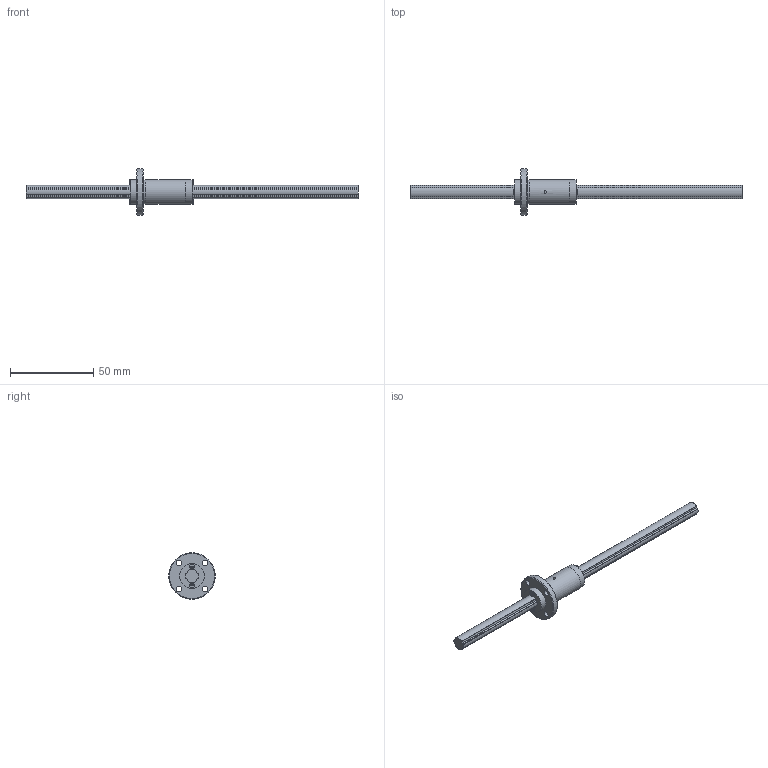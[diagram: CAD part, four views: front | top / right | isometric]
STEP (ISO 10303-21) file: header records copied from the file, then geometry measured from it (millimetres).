
FILE_DESCRIPTION(/* description */ ('STEP AP214'),/* implementation_level */ '2;1');
FILE_NAME(/* name */ 'LF8XL+200L(00)',/* time_stamp */ '2024-09-05T14:45:25+02:00',/* author */ ('License CC BY-ND 4.0'),/* organization */ ('CADENAS'),/* preprocessor_version */ 'ST-DEVELOPER v19.3',/* originating_system */ 'PARTsolutions',/* authorisation */ ' ');
FILE_SCHEMA (('AUTOMOTIVE_DESIGN {1 0 10303 214 3 1 1}'));
Length unit declared in the file: millimetre
Products named in the file (3): LF8XL+200L(00); 1LT8XL 200Shaft; 1LF8XL Cylindar
Assembly tree (2 placements, depth 2):
  LF8XL+200L(00)
    1LT8XL 200Shaft
    1LF8XL Cylindar
Bounding box: 200 x 28 x 28 mm (x, y, z)
Volume: 15809.1 mm3; surface area: 9346.3 mm2
Topology: 2 solids, 2 shells, 121 faces, 323 edges, 215 vertices
Faces by surface type: plane 70, cylinder 47, cone 4
Full cylindrical faces by diameter (mm): 1.5 x2, 3 x4, 3.4 x4, 14.7 x1, 14.8 x2, 15 x1, 28 x1
Entity records: 3753 total; most frequent: CARTESIAN_POINT 668, DIRECTION 632, ORIENTED_EDGE 592, EDGE_CURVE 296, AXIS2_PLACEMENT_3D 216, VERTEX_POINT 208, LINE 200, VECTOR 200
